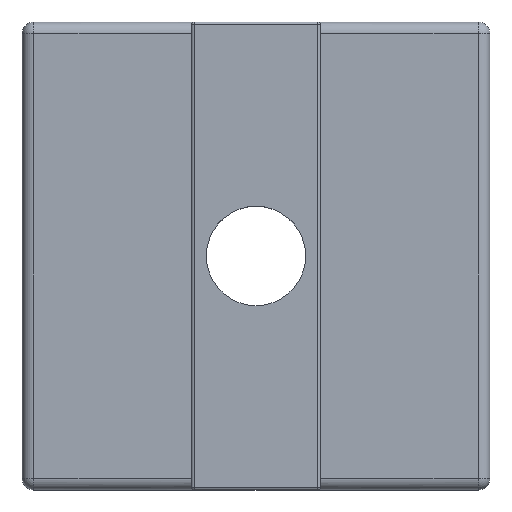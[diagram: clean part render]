
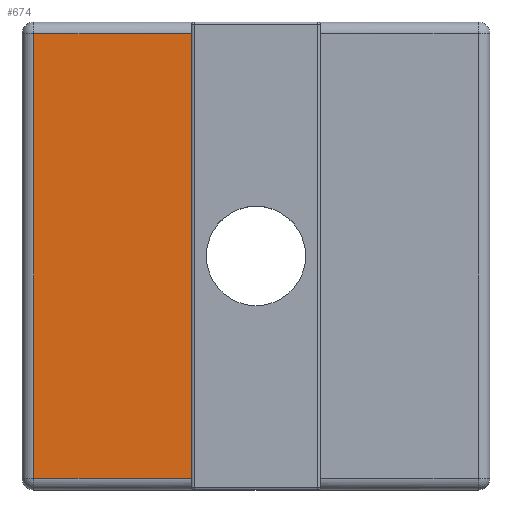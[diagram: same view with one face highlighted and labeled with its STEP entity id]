
A CAD part, top view. The second image highlights one B-rep face of the part: STEP entity #674.
In plain terms, the highlighted planar face has unit normal (0, 0, 1).
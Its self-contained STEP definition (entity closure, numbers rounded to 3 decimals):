
#28=PLANE('',#774);
#60=LINE('',#1117,#107);
#61=LINE('',#1125,#108);
#62=LINE('',#1130,#109);
#64=LINE('',#1139,#111);
#107=VECTOR('',#870,10.);
#108=VECTOR('',#881,10.);
#109=VECTOR('',#886,10.);
#111=VECTOR('',#898,10.);
#190=FACE_OUTER_BOUND('',#236,.T.);
#236=EDGE_LOOP('',(#590,#591,#592,#593));
#319=VERTEX_POINT('',#1114);
#320=VERTEX_POINT('',#1116);
#322=VERTEX_POINT('',#1123);
#324=VERTEX_POINT('',#1129);
#388=EDGE_CURVE('',#320,#319,#60,.T.);
#392=EDGE_CURVE('',#320,#322,#61,.T.);
#394=EDGE_CURVE('',#322,#324,#62,.T.);
#399=EDGE_CURVE('',#324,#319,#64,.T.);
#590=ORIENTED_EDGE('',*,*,#392,.F.);
#591=ORIENTED_EDGE('',*,*,#388,.T.);
#592=ORIENTED_EDGE('',*,*,#399,.F.);
#593=ORIENTED_EDGE('',*,*,#394,.F.);
#674=ADVANCED_FACE('',(#190),#28,.T.);
#774=AXIS2_PLACEMENT_3D('',#1202,#976,#977);
#870=DIRECTION('',(0.,1.,0.));
#881=DIRECTION('',(-1.,0.,0.));
#886=DIRECTION('',(0.,1.,0.));
#898=DIRECTION('',(1.,0.,0.));
#976=DIRECTION('center_axis',(0.,0.,1.));
#977=DIRECTION('ref_axis',(1.,0.,0.));
#1114=CARTESIAN_POINT('',(-24.137,9.963,3.2));
#1116=CARTESIAN_POINT('',(-24.137,-28.037,3.2));
#1117=CARTESIAN_POINT('',(-24.137,-19.037,3.2));
#1123=CARTESIAN_POINT('',(-37.637,-28.037,3.2));
#1125=CARTESIAN_POINT('',(-9.137,-28.037,3.2));
#1129=CARTESIAN_POINT('',(-37.637,9.963,3.2));
#1130=CARTESIAN_POINT('',(-37.637,-18.537,3.2));
#1139=CARTESIAN_POINT('',(-28.137,9.963,3.2));
#1202=CARTESIAN_POINT('Origin',(-18.637,-9.037,3.2));
